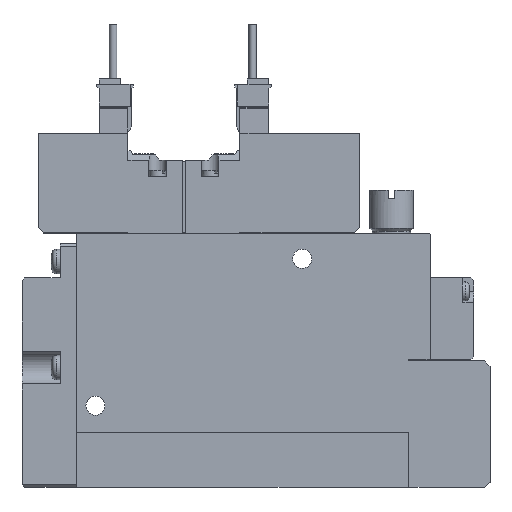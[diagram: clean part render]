
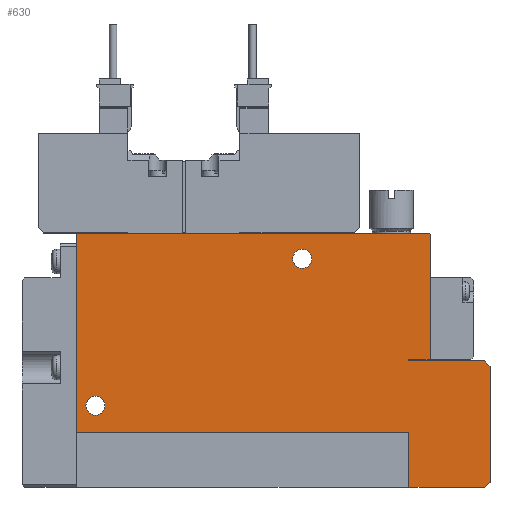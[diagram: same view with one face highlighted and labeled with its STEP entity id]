
A CAD part, top view. The second image highlights one B-rep face of the part: STEP entity #630.
In plain terms, the highlighted planar face has unit normal (0, 0, 1).
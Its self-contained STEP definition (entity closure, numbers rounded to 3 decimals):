
#630=ADVANCED_FACE('',(#1342,#1343,#1344),#1345,.F.);
#1342=FACE_OUTER_BOUND('',#2125,.T.);
#1343=FACE_BOUND('',#2126,.T.);
#1344=FACE_BOUND('',#2127,.T.);
#1345=PLANE('',#2128);
#2125=EDGE_LOOP('',(#4707,#4708,#4709,#4710,#4711,#4712,#4713,#4714,#4715,#4716,#4717,#4718,#4719,#4720));
#2126=EDGE_LOOP('',(#4721));
#2127=EDGE_LOOP('',(#4722));
#2128=AXIS2_PLACEMENT_3D('',#4723,#4724,#4725);
#4707=ORIENTED_EDGE('',*,*,#5920,.T.);
#4708=ORIENTED_EDGE('',*,*,#5921,.F.);
#4709=ORIENTED_EDGE('',*,*,#5872,.F.);
#4710=ORIENTED_EDGE('',*,*,#5852,.T.);
#4711=ORIENTED_EDGE('',*,*,#5935,.T.);
#4712=ORIENTED_EDGE('',*,*,#5885,.T.);
#4713=ORIENTED_EDGE('',*,*,#5931,.T.);
#4714=ORIENTED_EDGE('',*,*,#5881,.T.);
#4715=ORIENTED_EDGE('',*,*,#5933,.T.);
#4716=ORIENTED_EDGE('',*,*,#5844,.T.);
#4717=ORIENTED_EDGE('',*,*,#5929,.T.);
#4718=ORIENTED_EDGE('',*,*,#5898,.T.);
#4719=ORIENTED_EDGE('',*,*,#5855,.T.);
#4720=ORIENTED_EDGE('',*,*,#5902,.T.);
#4721=ORIENTED_EDGE('',*,*,#5936,.F.);
#4722=ORIENTED_EDGE('',*,*,#5925,.F.);
#4723=CARTESIAN_POINT('',(0.0,0.0,5.0));
#4724=DIRECTION('',(0.0,0.0,-1.0));
#4725=DIRECTION('',(0.0,-1.0,0.0));
#5844=EDGE_CURVE('',#7237,#7235,#7238,.T.);
#5852=EDGE_CURVE('',#7246,#7250,#7252,.T.);
#5855=EDGE_CURVE('',#7258,#7256,#7259,.T.);
#5872=EDGE_CURVE('',#7246,#7287,#7288,.T.);
#5881=EDGE_CURVE('',#7304,#7302,#7305,.T.);
#5885=EDGE_CURVE('',#7312,#7310,#7313,.T.);
#5898=EDGE_CURVE('',#7333,#7258,#7334,.T.);
#5902=EDGE_CURVE('',#7256,#7338,#7340,.T.);
#5920=EDGE_CURVE('',#7338,#7365,#7367,.T.);
#5921=EDGE_CURVE('',#7287,#7365,#7368,.T.);
#5925=EDGE_CURVE('',#7373,#7373,#7374,.T.);
#5929=EDGE_CURVE('',#7235,#7333,#7379,.T.);
#5931=EDGE_CURVE('',#7310,#7304,#7381,.T.);
#5933=EDGE_CURVE('',#7302,#7237,#7383,.T.);
#5935=EDGE_CURVE('',#7250,#7312,#7385,.T.);
#5936=EDGE_CURVE('',#7386,#7386,#7387,.T.);
#7235=VERTEX_POINT('',#9430);
#7237=VERTEX_POINT('',#9433);
#7238=LINE('',#9434,#9435);
#7246=VERTEX_POINT('',#9446);
#7250=VERTEX_POINT('',#9452);
#7252=LINE('',#9455,#9456);
#7256=VERTEX_POINT('',#9461);
#7258=VERTEX_POINT('',#9464);
#7259=LINE('',#9465,#9466);
#7287=VERTEX_POINT('',#9509);
#7288=LINE('',#9510,#9511);
#7302=VERTEX_POINT('',#9532);
#7304=VERTEX_POINT('',#9535);
#7305=LINE('',#9536,#9537);
#7310=VERTEX_POINT('',#9544);
#7312=VERTEX_POINT('',#9547);
#7313=LINE('',#9548,#9549);
#7333=VERTEX_POINT('',#9581);
#7334=LINE('',#9582,#9583);
#7338=VERTEX_POINT('',#9589);
#7340=LINE('',#9592,#9593);
#7365=VERTEX_POINT('',#9630);
#7367=LINE('',#9633,#9634);
#7368=LINE('',#9635,#9636);
#7373=VERTEX_POINT('',#9643);
#7374=CIRCLE('',#9644,1.75);
#7379=LINE('',#9651,#9652);
#7381=LINE('',#9655,#9656);
#7383=LINE('',#9659,#9660);
#7385=LINE('',#9663,#9664);
#7386=VERTEX_POINT('',#9665);
#7387=CIRCLE('',#9666,1.75);
#9430=CARTESIAN_POINT('',(65.0,23.5,5.0));
#9433=CARTESIAN_POINT('',(61.0,23.5,5.0));
#9434=CARTESIAN_POINT('',(61.0,23.5,5.0));
#9435=VECTOR('',#10959,1.0);
#9446=CARTESIAN_POINT('',(61.1,0.0,5.0));
#9452=CARTESIAN_POINT('',(75.0,0.0,5.0));
#9455=CARTESIAN_POINT('',(0.0,0.0,5.0));
#9456=VECTOR('',#10969,1.0);
#9461=CARTESIAN_POINT('',(0.2,46.6,5.0));
#9464=CARTESIAN_POINT('',(64.8,46.6,5.0));
#9465=CARTESIAN_POINT('',(64.8,46.6,5.0));
#9466=VECTOR('',#10972,1.0);
#9509=CARTESIAN_POINT('',(61.1,10.1,5.0));
#9510=CARTESIAN_POINT('',(61.1,0.0,5.0));
#9511=VECTOR('',#10991,1.0);
#9532=CARTESIAN_POINT('',(61.0,23.25,5.0));
#9535=CARTESIAN_POINT('',(75.0,23.25,5.0));
#9536=CARTESIAN_POINT('',(75.0,23.25,5.0));
#9537=VECTOR('',#11000,1.0);
#9544=CARTESIAN_POINT('',(76.0,22.25,5.0));
#9547=CARTESIAN_POINT('',(76.0,1.0,5.0));
#9548=CARTESIAN_POINT('',(76.0,1.0,5.0));
#9549=VECTOR('',#11004,1.0);
#9581=CARTESIAN_POINT('',(65.0,46.4,5.0));
#9582=CARTESIAN_POINT('',(65.0,46.4,5.0));
#9583=VECTOR('',#11017,1.0);
#9589=CARTESIAN_POINT('',(0.0,46.4,5.0));
#9592=CARTESIAN_POINT('',(0.2,46.6,5.0));
#9593=VECTOR('',#11021,1.0);
#9630=CARTESIAN_POINT('',(0.0,10.1,5.0));
#9633=CARTESIAN_POINT('',(0.0,46.4,5.0));
#9634=VECTOR('',#11047,1.0);
#9635=CARTESIAN_POINT('',(61.1,10.1,5.0));
#9636=VECTOR('',#11048,1.0);
#9643=CARTESIAN_POINT('',(43.25,42.0,5.0));
#9644=AXIS2_PLACEMENT_3D('',#11054,#11055,#11056);
#9651=CARTESIAN_POINT('',(65.0,23.5,5.0));
#9652=VECTOR('',#11062,1.0);
#9655=CARTESIAN_POINT('',(76.0,22.25,5.0));
#9656=VECTOR('',#11064,1.0);
#9659=CARTESIAN_POINT('',(61.0,23.25,5.0));
#9660=VECTOR('',#11066,1.0);
#9663=CARTESIAN_POINT('',(75.0,0.0,5.0));
#9664=VECTOR('',#11068,1.0);
#9665=CARTESIAN_POINT('',(5.25,15.0,5.0));
#9666=AXIS2_PLACEMENT_3D('',#11069,#11070,#11071);
#10959=DIRECTION('',(1.0,0.,0.0));
#10969=DIRECTION('',(1.0,0.0,0.0));
#10972=DIRECTION('',(-1.0,0.0,0.0));
#10991=DIRECTION('',(0.0,1.0,0.0));
#11000=DIRECTION('',(-1.0,0.0,0.0));
#11004=DIRECTION('',(0.0,1.0,0.0));
#11017=DIRECTION('',(-0.707,0.707,0.0));
#11021=DIRECTION('',(-0.707,-0.707,0.0));
#11047=DIRECTION('',(0.0,-1.0,0.0));
#11048=DIRECTION('',(-1.0,0.0,0.0));
#11054=CARTESIAN_POINT('',(41.5,42.0,5.0));
#11055=DIRECTION('',(0.0,0.0,1.0));
#11056=DIRECTION('',(1.0,0.0,0.0));
#11062=DIRECTION('',(0.0,1.0,0.0));
#11064=DIRECTION('',(-0.707,0.707,0.0));
#11066=DIRECTION('',(0.0,1.0,0.0));
#11068=DIRECTION('',(0.707,0.707,0.0));
#11069=CARTESIAN_POINT('',(3.5,15.0,5.0));
#11070=DIRECTION('',(0.0,0.0,1.0));
#11071=DIRECTION('',(1.0,0.0,0.0));
